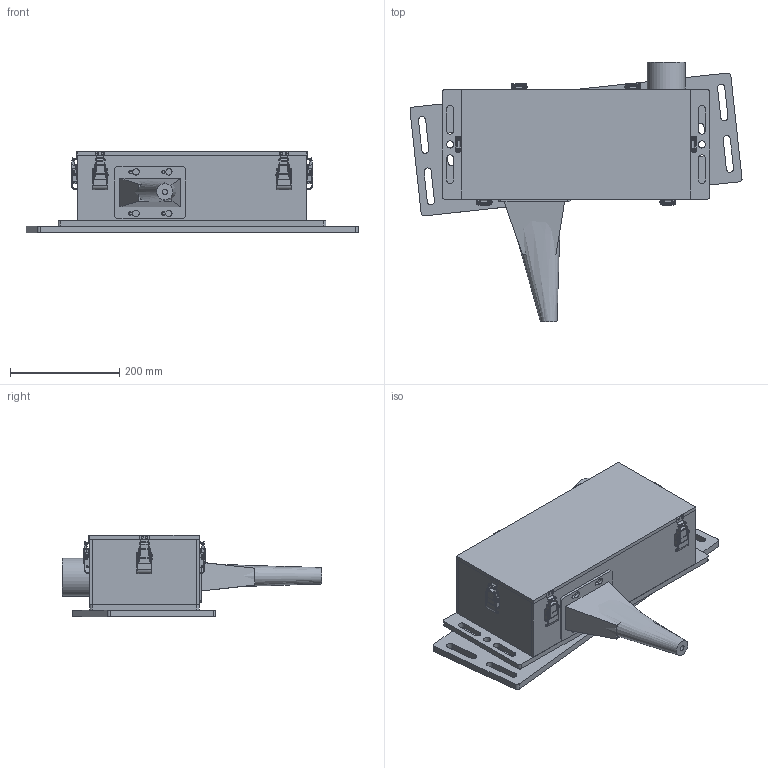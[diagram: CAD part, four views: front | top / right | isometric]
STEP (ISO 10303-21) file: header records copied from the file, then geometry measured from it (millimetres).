
FILE_DESCRIPTION(/* description */ ('Alibre Inc.'),/* implementation_level */ '2;1');
FILE_NAME(/* name */ 'export1',/* time_stamp */ '2015-04-27T12:49:51+02:00',/* author */ (''),/* organization */ (''),/* preprocessor_version */ 'ST-DEVELOPER v14',/* originating_system */ 'Alibre',/* authorisation */ '');
FILE_SCHEMA (('CONFIG_CONTROL_DESIGN'));
Length unit declared in the file: centimetre
Products named in the file (28): ID_1; ID_2; ID_3; ID_4; ID_5; ID_6; ID_7; ID_8; ID_9; ID_10; ID_11; ID_12; Emile Maurin | 62203B6X10; ID_13; ID_14; ID_15; ID_16
Bounding box: 607.04 x 474.07 x 149 mm (x, y, z)
Volume: 5268320.3 mm3; surface area: 1512832.1 mm2
Topology: 88 solids, 88 shells, 2571 faces, 15253 edges, 12985 vertices
Faces by surface type: plane 1384, cylinder 904, cone 147, torus 112, bspline 24
Full cylindrical faces by diameter (mm): 2.459 x2, 2.85 x8, 3 x5, 3.2 x5, 3.5 x8, 3.7 x12, 4.134 x4, 4.917 x12, 5.8 x4, 6 x4, 10 x5, 10.376 x1, 13 x2, 14.376 x4, 20 x4, 22 x1, 39.9 x1, 40 x1, 45 x2, 50 x2, 51 x2, 66 x1, 70 x2
Entity records: 50672 total; most frequent: CARTESIAN_POINT 11913, DIRECTION 7696, ORIENTED_EDGE 7672, EDGE_CURVE 3836, AXIS2_PLACEMENT_3D 3445, VERTEX_POINT 3043, CIRCLE 2367, EDGE_LOOP 1301
